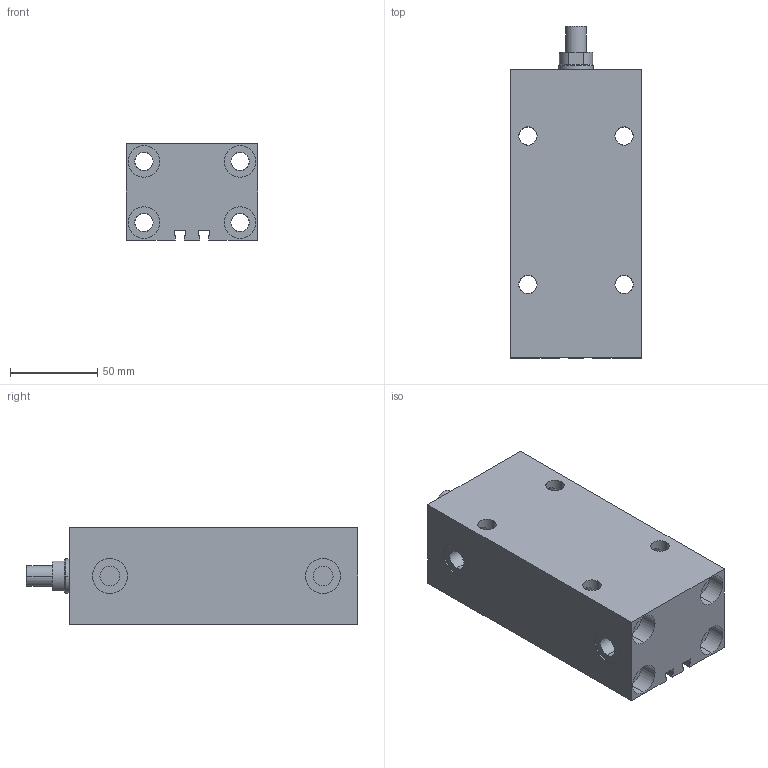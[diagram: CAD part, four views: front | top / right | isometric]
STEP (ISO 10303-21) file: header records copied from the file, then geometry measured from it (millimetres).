
FILE_DESCRIPTION (( 'STEP AP203' ), '1' );
FILE_NAME ('GERMA_Blockzylinder_700-032-100-A.STEP', '2016-07-22T09:04:47', ( '' ), ( '' ), 'SwSTEP 2.0', 'SolidWorks 2015', '' );
FILE_SCHEMA (( 'CONFIG_CONTROL_DESIGN' ));
Length unit declared in the file: millimetre
Products named in the file (3): GERMA_Blockzylinder_700-032-100-A; GH-700-032_GH-700-032-100; Kolben_MT 70x-032_Kolben_MT DU.32-Hub100-AG
Assembly tree (2 placements, depth 2):
  GERMA_Blockzylinder_700-032-100-A
    GH-700-032_GH-700-032-100
    Kolben_MT 70x-032_Kolben_MT DU.32-Hub100-AG
Bounding box: 75 x 190 x 55 mm (x, y, z)
Volume: 537527.5 mm3; surface area: 110432.1 mm2
Topology: 2 solids, 2 shells, 152 faces, 372 edges, 225 vertices
Faces by surface type: cylinder 93, plane 47, cone 12
Entity records: 4766 total; most frequent: CARTESIAN_POINT 942, DIRECTION 751, ORIENTED_EDGE 736, EDGE_CURVE 368, AXIS2_PLACEMENT_3D 290, VERTEX_POINT 225, EDGE_LOOP 189, VECTOR 171
